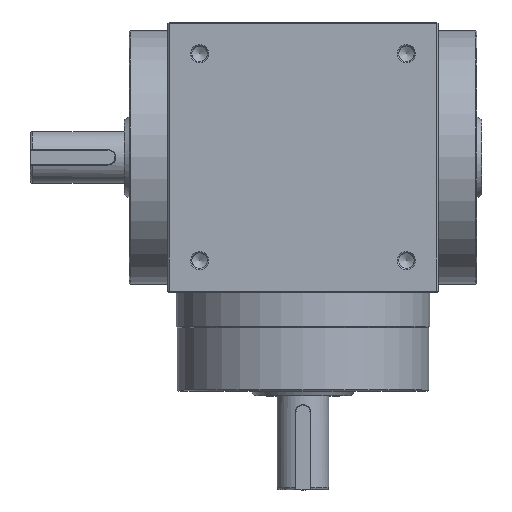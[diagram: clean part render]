
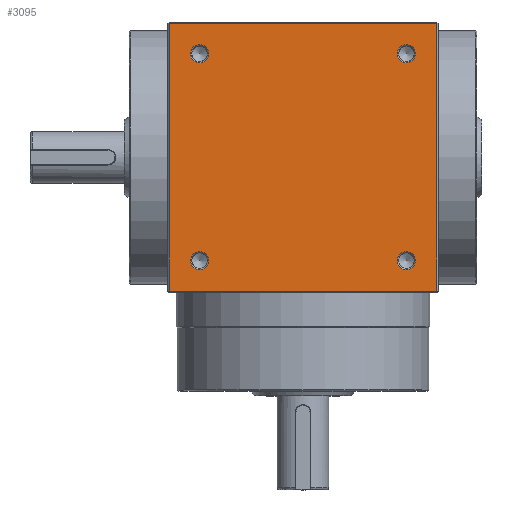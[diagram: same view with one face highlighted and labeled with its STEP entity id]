
A CAD part, top view. The second image highlights one B-rep face of the part: STEP entity #3095.
In plain terms, the highlighted planar face has unit normal (0, 0, 1).
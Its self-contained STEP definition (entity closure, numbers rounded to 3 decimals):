
#771=CARTESIAN_POINT('',(57.,-57.,57.5));
#772=VERTEX_POINT('',#771);
#779=CARTESIAN_POINT('',(-57.0,-57.,57.5));
#780=VERTEX_POINT('',#779);
#781=CARTESIAN_POINT('',(57.,-57.,57.5));
#782=DIRECTION('',(-1.0,0.0,0.0));
#783=VECTOR('',#782,114.0);
#784=LINE('',#781,#783);
#785=EDGE_CURVE('',#772,#780,#784,.T.);
#1024=CARTESIAN_POINT('',(-57.,57.,57.5));
#1025=VERTEX_POINT('',#1024);
#1026=CARTESIAN_POINT('',(-57.,-57.,57.5));
#1027=DIRECTION('',(0.0,1.0,0.0));
#1028=VECTOR('',#1027,114.0);
#1029=LINE('',#1026,#1028);
#1030=EDGE_CURVE('',#780,#1025,#1029,.T.);
#1056=CARTESIAN_POINT('',(57.,57.,57.5));
#1057=VERTEX_POINT('',#1056);
#1064=CARTESIAN_POINT('',(57.,57.,57.5));
#1065=DIRECTION('',(0.0,-1.0,0.0));
#1066=VECTOR('',#1065,114.);
#1067=LINE('',#1064,#1066);
#1068=EDGE_CURVE('',#1057,#772,#1067,.T.);
#3024=CARTESIAN_POINT('',(-57.,57.,57.5));
#3025=DIRECTION('',(1.0,0.0,0.0));
#3026=VECTOR('',#3025,114.0);
#3027=LINE('',#3024,#3026);
#3028=EDGE_CURVE('',#1025,#1057,#3027,.T.);
#3040=CARTESIAN_POINT('',(0.,0.,57.5));
#3041=DIRECTION('',(0.0,0.0,1.0));
#3042=DIRECTION('',(1.0,0.0,0.0));
#3043=AXIS2_PLACEMENT_3D('',#3040,#3041,#3042);
#3044=PLANE('',#3043);
#3045=ORIENTED_EDGE('',*,*,#785,.F.);
#3046=ORIENTED_EDGE('',*,*,#1068,.F.);
#3047=ORIENTED_EDGE('',*,*,#3028,.F.);
#3048=ORIENTED_EDGE('',*,*,#1030,.F.);
#3049=EDGE_LOOP('',(#3045,#3046,#3047,#3048));
#3050=FACE_OUTER_BOUND('',#3049,.T.);
#3051=CARTESIAN_POINT('',(40.177,-44.,57.5));
#3052=VERTEX_POINT('',#3051);
#3053=CARTESIAN_POINT('',(44.0,-44.,57.5));
#3054=DIRECTION('',(0.0,0.0,1.0));
#3055=DIRECTION('',(1.0,0.0,0.0));
#3056=AXIS2_PLACEMENT_3D('',#3053,#3054,#3055);
#3057=CIRCLE('',#3056,3.823);
#3058=EDGE_CURVE('',#3052,#3052,#3057,.T.);
#3059=ORIENTED_EDGE('',*,*,#3058,.F.);
#3060=EDGE_LOOP('',(#3059));
#3061=FACE_BOUND('',#3060,.T.);
#3062=CARTESIAN_POINT('',(-40.177,-44.,57.5));
#3063=VERTEX_POINT('',#3062);
#3064=CARTESIAN_POINT('',(-44.0,-44.,57.5));
#3065=DIRECTION('',(0.0,0.0,1.0));
#3066=DIRECTION('',(-1.0,0.0,0.0));
#3067=AXIS2_PLACEMENT_3D('',#3064,#3065,#3066);
#3068=CIRCLE('',#3067,3.823);
#3069=EDGE_CURVE('',#3063,#3063,#3068,.T.);
#3070=ORIENTED_EDGE('',*,*,#3069,.F.);
#3071=EDGE_LOOP('',(#3070));
#3072=FACE_BOUND('',#3071,.T.);
#3073=CARTESIAN_POINT('',(-40.177,44.,57.5));
#3074=VERTEX_POINT('',#3073);
#3075=CARTESIAN_POINT('',(-44.0,44.,57.5));
#3076=DIRECTION('',(0.0,0.0,1.0));
#3077=DIRECTION('',(-1.0,0.0,0.0));
#3078=AXIS2_PLACEMENT_3D('',#3075,#3076,#3077);
#3079=CIRCLE('',#3078,3.823);
#3080=EDGE_CURVE('',#3074,#3074,#3079,.T.);
#3081=ORIENTED_EDGE('',*,*,#3080,.F.);
#3082=EDGE_LOOP('',(#3081));
#3083=FACE_BOUND('',#3082,.T.);
#3084=CARTESIAN_POINT('',(40.177,44.,57.5));
#3085=VERTEX_POINT('',#3084);
#3086=CARTESIAN_POINT('',(44.,44.,57.5));
#3087=DIRECTION('',(0.0,0.0,1.0));
#3088=DIRECTION('',(1.0,0.0,0.0));
#3089=AXIS2_PLACEMENT_3D('',#3086,#3087,#3088);
#3090=CIRCLE('',#3089,3.823);
#3091=EDGE_CURVE('',#3085,#3085,#3090,.T.);
#3092=ORIENTED_EDGE('',*,*,#3091,.F.);
#3093=EDGE_LOOP('',(#3092));
#3094=FACE_BOUND('',#3093,.T.);
#3095=ADVANCED_FACE('',(#3050,#3061,#3072,#3083,#3094),#3044,.T.);
